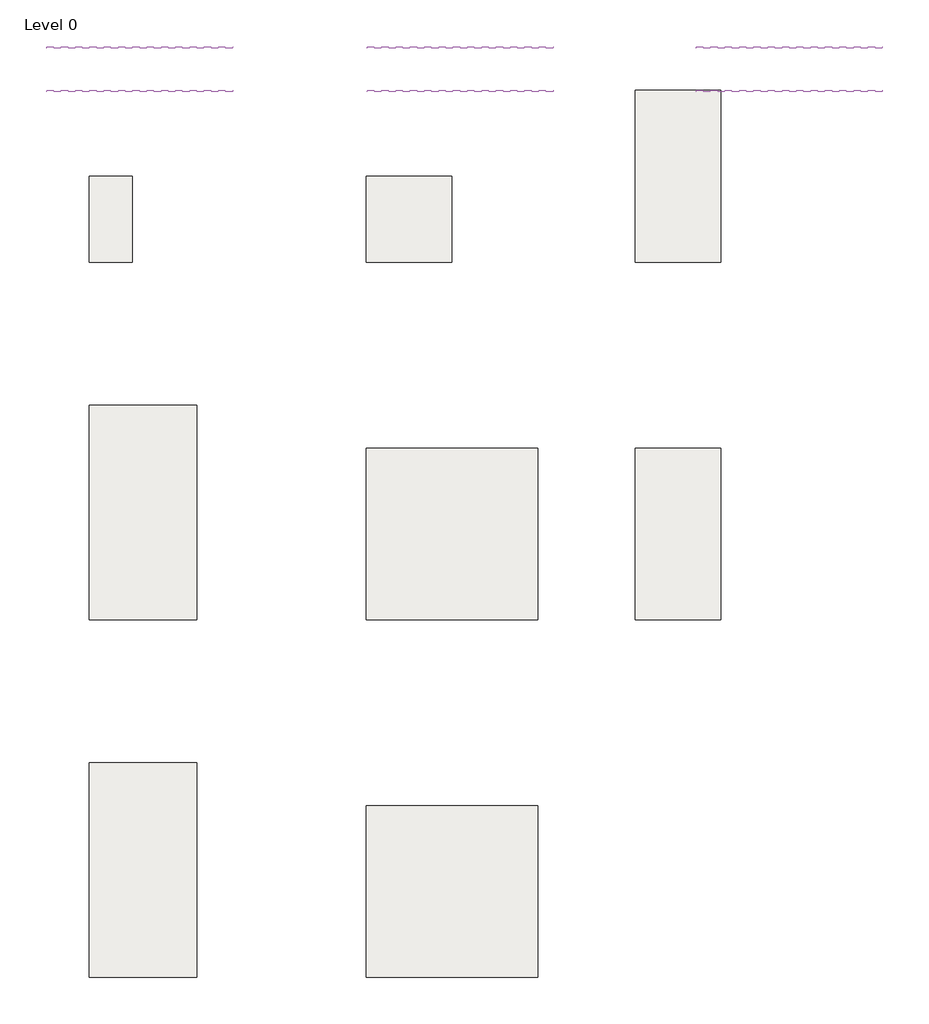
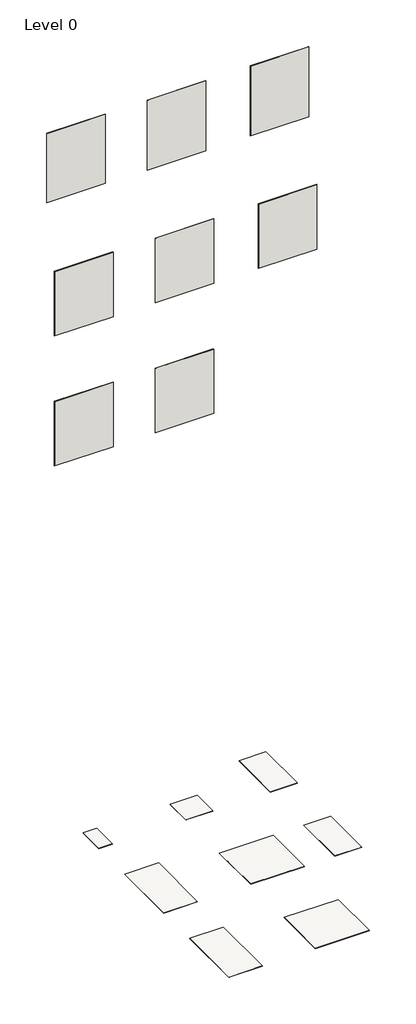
# One storey: 8 slabs, 8 walls.
"""IFC4 building model written with IfcOpenShell, lengths in millimetres."""

import ifcopenshell
import ifcopenshell.guid

model = None  # the IFC model being written
_history = None  # IfcOwnerHistory: only IFC2X3 demands one
_inside = {}  # id of a spatial element -> (the spatial element, [elements in it])
_under = {}  # id of a project, library or spatial element -> (it, [spatial elements below it])
_declared = {}  # id of a project -> (the project, [libraries it declares])
_typed = {}  # id of a type object -> (the type object, [elements of that type])
_made_of = {}  # id of a material, layer set ... -> (it, [elements and type objects made of it])


def new_model(schema):
    """Start an empty IFC model of exactly this schema.

    Asked for "IFC4X3", IfcOpenShell would pick the latest addendum, in which some entities
    have other attributes; the version numbers below select the first issue.
    IFC2X3 requires an IfcOwnerHistory on every rooted entity: one is made here for all.
    """
    global model, _history
    if schema == "IFC4X3":
        model = ifcopenshell.file(schema_version=(4, 3, 0, 0))
    else:
        model = ifcopenshell.file(schema=schema)
    _inside.clear()
    _under.clear()
    _declared.clear()
    _typed.clear()
    _made_of.clear()
    _history = None
    if model.schema == "IFC2X3":
        org = make("IfcOrganization", Name="unknown")
        user = make(
            "IfcPersonAndOrganization",
            ThePerson=make("IfcPerson", FamilyName="unknown"),
            TheOrganization=org,
        )
        app = make(
            "IfcApplication",
            ApplicationDeveloper=org,
            Version="unknown",
            ApplicationFullName="unknown",
            ApplicationIdentifier="unknown",
        )
        _history = make(
            "IfcOwnerHistory",
            OwningUser=user,
            OwningApplication=app,
            ChangeAction="ADDED",
            CreationDate=0,
        )
    return model


def make(cls, **values):
    """One entity of the class cls with the attributes given. An attribute that is None is left unset."""
    return model.create_entity(
        cls, **{name: value for name, value in values.items() if value is not None}
    )


def rooted(cls, **values):
    """An entity with a GlobalId (a new one), such as an element, a storey or a relation."""
    return make(cls, GlobalId=ifcopenshell.guid.new(), OwnerHistory=_history, **values)


def si_unit(unit_type, name, prefix=None):
    """IfcSIUnit, for example si_unit("LENGTHUNIT", "METRE", prefix="MILLI")."""
    return make("IfcSIUnit", UnitType=unit_type, Prefix=prefix, Name=name)


def assignment(units):
    """IfcUnitAssignment: the units of a project."""
    return None if units is None else make("IfcUnitAssignment", Units=units)


def point(xyz):
    """IfcCartesianPoint."""
    return None if xyz is None else make("IfcCartesianPoint", Coordinates=xyz)


def direction(xyz):
    """IfcDirection."""
    return None if xyz is None else make("IfcDirection", DirectionRatios=xyz)


def frame(location, z_axis=None, x_axis=None):
    """IfcAxis2Placement3D, a coordinate frame: its origin and axes. An axis left out is left unset."""
    return make(
        "IfcAxis2Placement3D",
        Location=point(location),
        Axis=direction(z_axis),
        RefDirection=direction(x_axis),
    )


def origin():
    """The frame at (0, 0, 0) with its axes left unset."""
    return frame((0.0, 0.0, 0.0))


def place(relative_to, where):
    """IfcLocalPlacement: puts the frame where relative to a parent placement (None: the world)."""
    return make(
        "IfcLocalPlacement", PlacementRelTo=relative_to, RelativePlacement=where
    )


def context(
    kind, dimensions, precision=None, world=None, true_north=None, identifier=None
):
    """IfcGeometricRepresentationContext, for example the 3D "Model" context."""
    return make(
        "IfcGeometricRepresentationContext",
        ContextIdentifier=identifier,
        ContextType=kind,
        CoordinateSpaceDimension=dimensions,
        Precision=precision,
        WorldCoordinateSystem=world,
        TrueNorth=true_north,
    )


def project(units=None, contexts=None):
    """IfcProject with its units and contexts."""
    return rooted(
        "IfcProject",
        Name="project",
        RepresentationContexts=contexts,
        UnitsInContext=assignment(units),
    )


def spatial(cls, under=None, at=None, **own):
    """A site, building, storey or space (cls), placed at a placement, below another one or the project."""
    s = rooted(cls, ObjectPlacement=at, **own)
    if under is not None:
        _under.setdefault(under.id(), (under, []))[1].append(s)
    return s


def polyline(points):
    """IfcPolyline through the points."""
    return make("IfcPolyline", Points=[point(p) for p in points])


def outline(outer, holes=None, kind="AREA"):
    """IfcArbitraryClosedProfileDef: a profile drawn as a closed curve; with holes, ...WithVoids."""
    if holes is None:
        return make("IfcArbitraryClosedProfileDef", ProfileType=kind, OuterCurve=outer)
    return make(
        "IfcArbitraryProfileDefWithVoids",
        ProfileType=kind,
        OuterCurve=outer,
        InnerCurves=holes,
    )


def extrude(swept, where, along, depth):
    """IfcExtrudedAreaSolid: the profile swept, set in the frame where, extruded along a direction by depth."""
    return make(
        "IfcExtrudedAreaSolid",
        SweptArea=swept,
        Position=where,
        ExtrudedDirection=direction(along),
        Depth=depth,
    )


def shape(context_of_items, identifier, shape_type, items):
    """IfcShapeRepresentation: the items that make up one representation, for example the "Body"."""
    return make(
        "IfcShapeRepresentation",
        ContextOfItems=context_of_items,
        RepresentationIdentifier=identifier,
        RepresentationType=shape_type,
        Items=items,
    )


def made_of(thing, what):
    """Note that an element or type object is made of a material, layer set ...; save() writes the relation."""
    if what is not None:
        _made_of.setdefault(what.id(), (what, []))[1].append(thing)
    return thing


def element(
    cls,
    number,
    at=None,
    inside=None,
    cuts=None,
    type_object=None,
    material=None,
    context=None,
    identifier="Body",
    shape_type=None,
    held_by="IfcProductDefinitionShape",
    body=None,
    shapes=None,
    **own,
):
    """One element of the class cls, such as IfcWall. Its Tag is "e" and its number.

    at: its placement. inside: the storey or other place that contains it. cuts: it is an
    opening in that element (IfcRelVoidsElement). A single representation is given by context,
    identifier, shape_type and body (its items); several are given by shapes. held_by: the class
    of the entity that holds the representations. save() writes the other relations.
    """
    e = rooted(cls, Tag="e%d" % number, ObjectPlacement=at, **own)
    if body is not None:
        shapes = [shape(context, identifier, shape_type, body)]
    if shapes is not None:
        e.Representation = make(held_by, Representations=shapes)
    if inside is not None:
        _inside.setdefault(inside.id(), (inside, []))[1].append(e)
    if cuts is not None:
        rooted(
            "IfcRelVoidsElement", RelatingBuildingElement=cuts, RelatedOpeningElement=e
        )
    if type_object is not None:
        _typed.setdefault(type_object.id(), (type_object, []))[1].append(e)
    return made_of(e, material)


def aggregate(whole, parts):
    """IfcRelAggregates: a whole, such as a stair, and the parts it consists of."""
    return rooted("IfcRelAggregates", RelatingObject=whole, RelatedObjects=parts)


def save(model, path):
    """Write the relations noted so far, then the file.

    IfcRelAggregates (storeys below a building ...), IfcRelContainedInSpatialStructure (elements
    in a storey), IfcRelDefinesByType, IfcRelAssociatesMaterial and IfcRelDeclares: one each for
    every whole, place, type object, material and project.
    """
    for whole, parts in _under.values():
        aggregate(whole, parts)
    for where, things in _inside.values():
        rooted(
            "IfcRelContainedInSpatialStructure",
            RelatedElements=things,
            RelatingStructure=where,
        )
    for kind, things in _typed.values():
        rooted("IfcRelDefinesByType", RelatedObjects=things, RelatingType=kind)
    for what, things in _made_of.values():
        rooted("IfcRelAssociatesMaterial", RelatedObjects=things, RelatingMaterial=what)
    for by, libraries in _declared.values():
        rooted("IfcRelDeclares", RelatingContext=by, RelatedDefinitions=libraries)
    model.write(path)


model = new_model("IFC4")

# Units and contexts
model_context = context("Model", 3, world=origin())
ifc_project = project(units=[si_unit("LENGTHUNIT", "METRE", prefix="MILLI")], contexts=[model_context])

# Site, building, storey
site = spatial("IfcSite", under=ifc_project)
building = spatial("IfcBuilding", under=site)
storey = spatial("IfcBuildingStorey", under=building, Name="Level 0", Elevation=0.0)

# Slabs
placement = place(None, origin())
element("IfcSlab", 1, ObjectType="Floor_Tiles_Refin-Etherea-Grey-30x60 RJ90", at=placement, inside=storey, context=model_context, shape_type="SweptSolid", body=[
    extrude(outline(polyline([(6974.3752062, 7239.4623743), (6974.3752062, 6639.4623743), (6674.3752062, 6639.4623743), (6674.3752062, 7239.4623743), (6974.3752062, 7239.4623743)])), frame((0.0, 0.0, -10.0), z_axis=(0.0, 0.0, 1.0), x_axis=(1.0, 0.0, 0.0)), (0.0, 0.0, 1.0), 10.0),
])
element("IfcSlab", 2, ObjectType="Floor_Tiles_Refin-Etherea-Grey-60x60 RJ85", at=placement, inside=storey, context=model_context, shape_type="SweptSolid", body=[
    extrude(outline(polyline([(9207.3924055, 7239.4623743), (9207.3924055, 6639.4623743), (8607.3924055, 6639.4623743), (8607.3924055, 7239.4623743), (9207.3924055, 7239.4623743)])), frame((0.0, 0.0, -10.0), z_axis=(0.0, 0.0, 1.0), x_axis=(1.0, 0.0, 0.0)), (0.0, 0.0, 1.0), 10.0),
])
element("IfcSlab", 3, ObjectType="Floor_Tiles_Refin-Etherea-Grey-60x120 RJ71", at=placement, inside=storey, context=model_context, shape_type="SweptSolid", body=[
    extrude(outline(polyline([(11087.1861419, 7839.4623743), (11087.1861419, 6639.4623743), (10487.1861419, 6639.4623743), (10487.1861419, 7839.4623743), (11087.1861419, 7839.4623743)])), frame((0.0, 0.0, -10.0), z_axis=(0.0, 0.0, 1.0), x_axis=(1.0, 0.0, 0.0)), (0.0, 0.0, 1.0), 10.0),
])
element("IfcSlab", 4, ObjectType="Floor_Tiles_Refin-Etherea-Grey-75x150 RK14", at=placement, inside=storey, context=model_context, shape_type="SweptSolid", body=[
    extrude(outline(polyline([(7424.3752062, 5639.4623743), (7424.3752062, 4139.4623743), (6674.3752062, 4139.4623743), (6674.3752062, 5639.4623743), (7424.3752062, 5639.4623743)])), frame((0.0, 0.0, -10.0), z_axis=(0.0, 0.0, 1.0), x_axis=(1.0, 0.0, 0.0)), (0.0, 0.0, 1.0), 10.0),
])
element("IfcSlab", 5, ObjectType="Floor_Tiles_Refin-Etherea-Grey-120x120 RJ58", at=placement, inside=storey, context=model_context, shape_type="SweptSolid", body=[
    extrude(outline(polyline([(9807.3924055, 5339.4623743), (9807.3924055, 4139.4623743), (8607.3924055, 4139.4623743), (8607.3924055, 5339.4623743), (9807.3924055, 5339.4623743)])), frame((0.0, 0.0, -10.0), z_axis=(0.0, 0.0, 1.0), x_axis=(1.0, 0.0, 0.0)), (0.0, 0.0, 1.0), 10.0),
])
element("IfcSlab", 6, ObjectType="Floor_Tiles_Refin-Etherea-Grey-C2-GRIP-60x120 RN15", at=placement, inside=storey, context=model_context, shape_type="SweptSolid", body=[
    extrude(outline(polyline([(11087.1861419, 5339.4623743), (11087.1861419, 4139.4623743), (10487.1861419, 4139.4623743), (10487.1861419, 5339.4623743), (11087.1861419, 5339.4623743)])), frame((0.0, 0.0, -10.0), z_axis=(0.0, 0.0, 1.0), x_axis=(1.0, 0.0, 0.0)), (0.0, 0.0, 1.0), 10.0),
])
element("IfcSlab", 7, ObjectType="Floor_Tiles_Refin-Etherea-Grey-Lucido-75x150 RK19", at=placement, inside=storey, context=model_context, shape_type="SweptSolid", body=[
    extrude(outline(polyline([(7424.3752062, 3139.4623743), (7424.3752062, 1639.4623743), (6674.3752062, 1639.4623743), (6674.3752062, 3139.4623743), (7424.3752062, 3139.4623743)])), frame((0.0, 0.0, -10.0), z_axis=(0.0, 0.0, 1.0), x_axis=(1.0, 0.0, 0.0)), (0.0, 0.0, 1.0), 10.0),
])
element("IfcSlab", 8, ObjectType="Floor_Tiles_Refin-Etherea-Grey-Lucido-120x120 RJ62", at=placement, inside=storey, context=model_context, shape_type="SweptSolid", body=[
    extrude(outline(polyline([(9807.3924055, 2839.4623743), (9807.3924055, 1639.4623743), (8607.3924055, 1639.4623743), (8607.3924055, 2839.4623743), (9807.3924055, 2839.4623743)])), frame((0.0, 0.0, -10.0), z_axis=(0.0, 0.0, 1.0), x_axis=(1.0, 0.0, 0.0)), (0.0, 0.0, 1.0), 10.0),
])

# Walls
element("IfcWall", 9, ObjectType="Wall_Tiles_Refin-Etherea-Grey-60x60 RJ85", at=placement, inside=storey, context=model_context, shape_type="SweptSolid", body=[
    extrude(outline(polyline([(9914.3752062, 8132.3838631), (8614.3752062, 8132.3838631), (8614.3752062, 8142.3838631), (9914.3752062, 8142.3838631), (9914.3752062, 8132.3838631)])), frame((0.0, 0.0, 14387.6770443), z_axis=(0.0, 0.0, 1.0), x_axis=(1.0, 0.0, 0.0)), (0.0, 0.0, 1.0), 1641.7417352),
])
element("IfcWall", 10, ObjectType="Wall_Tiles_Refin-Etherea-Grey-60x120 RJ71", at=placement, inside=storey, context=model_context, shape_type="SweptSolid", body=[
    extrude(outline(polyline([(12214.3752062, 8132.3838631), (10914.3752062, 8132.3838631), (10914.3752062, 8142.3838631), (12214.3752062, 8142.3838631), (12214.3752062, 8132.3838631)])), frame((0.0, 0.0, 14387.6770443), z_axis=(0.0, 0.0, 1.0), x_axis=(1.0, 0.0, 0.0)), (0.0, 0.0, 1.0), 1641.7417352),
])
element("IfcWall", 11, ObjectType="Wall_Tiles_Refin-Etherea-Grey-30x60 RJ90", at=placement, inside=storey, context=model_context, shape_type="SweptSolid", body=[
    extrude(outline(polyline([(7674.3752062, 8132.3838631), (6374.3752062, 8132.3838631), (6374.3752062, 8142.3838631), (7674.3752062, 8142.3838631), (7674.3752062, 8132.3838631)])), frame((0.0, 0.0, 14403.7267346), z_axis=(0.0, 0.0, 1.0), x_axis=(1.0, 0.0, 0.0)), (0.0, 0.0, 1.0), 1625.692045),
])
element("IfcWall", 12, ObjectType="Wall_Tiles_Refin-Etherea-Grey-75x150 RK14", at=placement, inside=storey, context=model_context, shape_type="SweptSolid", body=[
    extrude(outline(polyline([(7674.3752062, 7827.3838631), (6374.3752062, 7827.3838631), (6374.3752062, 7837.3838631), (7674.3752062, 7837.3838631), (7674.3752062, 7827.3838631)])), frame((0.0, 0.0, 11452.5436262), z_axis=(0.0, 0.0, 1.0), x_axis=(1.0, 0.0, 0.0)), (0.0, 0.0, 1.0), 1513.1985566),
])
element("IfcWall", 13, ObjectType="Wall_Tiles_Refin-Etherea-Grey-120x120 RJ58", at=placement, inside=storey, context=model_context, shape_type="SweptSolid", body=[
    extrude(outline(polyline([(9914.3752062, 7827.3838631), (8614.3752062, 7827.3838631), (8614.3752062, 7837.3838631), (9914.3752062, 7837.3838631), (9914.3752062, 7827.3838631)])), frame((0.0, 0.0, 11452.5436262), z_axis=(0.0, 0.0, 1.0), x_axis=(1.0, 0.0, 0.0)), (0.0, 0.0, 1.0), 1513.1985566),
])
element("IfcWall", 14, ObjectType="Wall_Tiles_Refin-Etherea-Grey-C2-GRIP-60x120 RN15", at=placement, inside=storey, context=model_context, shape_type="SweptSolid", body=[
    extrude(outline(polyline([(12214.3752062, 7827.3838631), (10914.3752062, 7827.3838631), (10914.3752062, 7837.3838631), (12214.3752062, 7837.3838631), (12214.3752062, 7827.3838631)])), frame((0.0, 0.0, 11452.5436262), z_axis=(0.0, 0.0, 1.0), x_axis=(1.0, 0.0, 0.0)), (0.0, 0.0, 1.0), 1513.1985566),
])
element("IfcWall", 15, ObjectType="Wall_Tiles_Refin-Etherea-Grey-Lucido-75x150 RK19", at=placement, inside=storey, context=model_context, shape_type="SweptSolid", body=[
    extrude(outline(polyline([(7674.3752062, 7827.3838631), (6374.3752062, 7827.3838631), (6374.3752062, 7837.3838631), (7674.3752062, 7837.3838631), (7674.3752062, 7827.3838631)])), frame((0.0, 0.0, 8388.8670295), z_axis=(0.0, 0.0, 1.0), x_axis=(1.0, 0.0, 0.0)), (0.0, 0.0, 1.0), 1513.1985566),
])
element("IfcWall", 16, ObjectType="Wall_Tiles_Refin-Etherea-Grey-Lucido-120x120 RJ62", at=placement, inside=storey, context=model_context, shape_type="SweptSolid", body=[
    extrude(outline(polyline([(9914.3752062, 7827.3838631), (8614.3752062, 7827.3838631), (8614.3752062, 7837.3838631), (9914.3752062, 7837.3838631), (9914.3752062, 7827.3838631)])), frame((0.0, 0.0, 8388.8670295), z_axis=(0.0, 0.0, 1.0), x_axis=(1.0, 0.0, 0.0)), (0.0, 0.0, 1.0), 1513.1985566),
])

save(model, "model.ifc")
